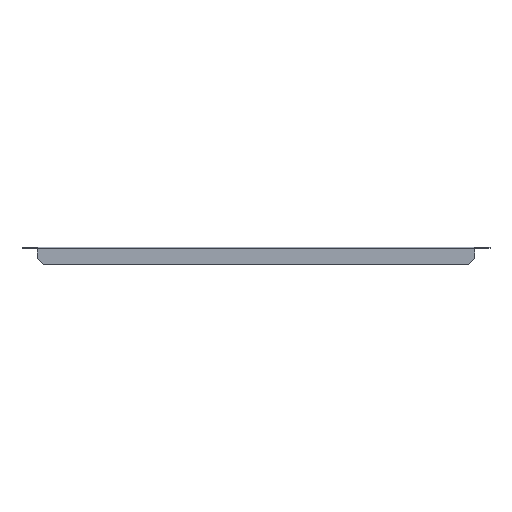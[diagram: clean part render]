
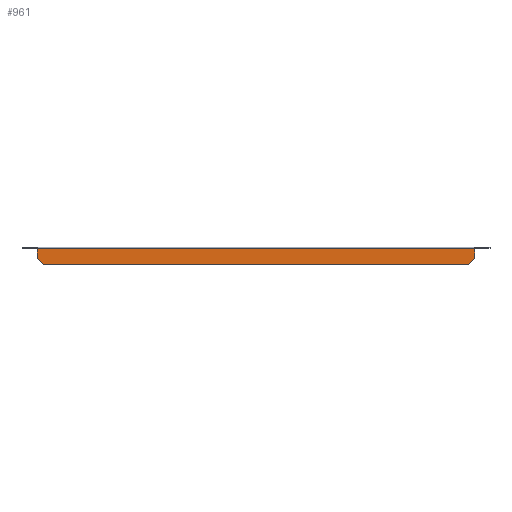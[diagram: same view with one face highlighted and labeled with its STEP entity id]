
A CAD part, front view. The second image highlights one B-rep face of the part: STEP entity #961.
In plain terms, the highlighted planar face has unit normal (0, -1, 0).
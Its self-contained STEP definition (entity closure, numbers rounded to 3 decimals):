
#69 = CARTESIAN_POINT ( 'NONE',  ( 639.308, 0., -25. ) ) ;
#79 = VERTEX_POINT ( 'NONE', #756 ) ;
#125 = EDGE_CURVE ( 'NONE', #79, #297, #1355, .T. ) ;
#132 = DIRECTION ( 'NONE',  ( 0., 0., 1. ) ) ;
#147 = ORIENTED_EDGE ( 'NONE', *, *, #1243, .T. ) ;
#148 = VERTEX_POINT ( 'NONE', #883 ) ;
#154 = DIRECTION ( 'NONE',  ( 0., 0., -1. ) ) ;
#286 = VERTEX_POINT ( 'NONE', #904 ) ;
#297 = VERTEX_POINT ( 'NONE', #427 ) ;
#302 = DIRECTION ( 'NONE',  ( 1., 0., 0. ) ) ;
#385 = CARTESIAN_POINT ( 'NONE',  ( 648.5, 0., -2.237 ) ) ;
#389 = PLANE ( 'NONE',  #402 ) ;
#402 = AXIS2_PLACEMENT_3D ( 'NONE', #1447, #864, #132 ) ;
#424 = ORIENTED_EDGE ( 'NONE', *, *, #1105, .T. ) ;
#427 = CARTESIAN_POINT ( 'NONE',  ( 30.692, 0., -25. ) ) ;
#468 = LINE ( 'NONE', #1515, #1448 ) ;
#487 = VECTOR ( 'NONE', #1150, 1000. ) ;
#543 = EDGE_CURVE ( 'NONE', #297, #666, #468, .T. ) ;
#571 = LINE ( 'NONE', #1506, #1603 ) ;
#654 = CARTESIAN_POINT ( 'NONE',  ( 648.5, 0., -1.5 ) ) ;
#661 = LINE ( 'NONE', #1167, #1710 ) ;
#666 = VERTEX_POINT ( 'NONE', #69 ) ;
#673 = DIRECTION ( 'NONE',  ( 1., 0., 0. ) ) ;
#679 = VECTOR ( 'NONE', #1479, 1000. ) ;
#756 = CARTESIAN_POINT ( 'NONE',  ( 21.5, 0., -15.808 ) ) ;
#765 = LINE ( 'NONE', #654, #679 ) ;
#803 = VECTOR ( 'NONE', #1018, 1000. ) ;
#818 = FACE_OUTER_BOUND ( 'NONE', #996, .T. ) ;
#864 = DIRECTION ( 'NONE',  ( 0., 1., 0. ) ) ;
#879 = ORIENTED_EDGE ( 'NONE', *, *, #125, .T. ) ;
#883 = CARTESIAN_POINT ( 'NONE',  ( 21.5, 0., -2.237 ) ) ;
#904 = CARTESIAN_POINT ( 'NONE',  ( 648.5, 0., -15.808 ) ) ;
#905 = ORIENTED_EDGE ( 'NONE', *, *, #1347, .F. ) ;
#946 = ORIENTED_EDGE ( 'NONE', *, *, #543, .T. ) ;
#951 = VERTEX_POINT ( 'NONE', #385 ) ;
#961 = ADVANCED_FACE ( 'NONE', ( #818 ), #389, .F. ) ;
#996 = EDGE_LOOP ( 'NONE', ( #905, #424, #879, #946, #147, #1147 ) ) ;
#1018 = DIRECTION ( 'NONE',  ( 0.707, 0., -0.707 ) ) ;
#1105 = EDGE_CURVE ( 'NONE', #148, #79, #661, .T. ) ;
#1147 = ORIENTED_EDGE ( 'NONE', *, *, #1526, .T. ) ;
#1150 = DIRECTION ( 'NONE',  ( 0.707, 0., 0.707 ) ) ;
#1152 = CARTESIAN_POINT ( 'NONE',  ( 342.154, 0., -322.154 ) ) ;
#1161 = LINE ( 'NONE', #1152, #487 ) ;
#1167 = CARTESIAN_POINT ( 'NONE',  ( 21.5, 0., -1.5 ) ) ;
#1243 = EDGE_CURVE ( 'NONE', #666, #286, #1161, .T. ) ;
#1347 = EDGE_CURVE ( 'NONE', #148, #951, #571, .T. ) ;
#1355 = LINE ( 'NONE', #1623, #803 ) ;
#1447 = CARTESIAN_POINT ( 'NONE',  ( 21.5, 0., -1.5 ) ) ;
#1448 = VECTOR ( 'NONE', #673, 1000. ) ;
#1479 = DIRECTION ( 'NONE',  ( 0., 0., 1. ) ) ;
#1506 = CARTESIAN_POINT ( 'NONE',  ( 648.5, 0., -2.237 ) ) ;
#1515 = CARTESIAN_POINT ( 'NONE',  ( 21.5, 0., -25. ) ) ;
#1526 = EDGE_CURVE ( 'NONE', #286, #951, #765, .T. ) ;
#1603 = VECTOR ( 'NONE', #302, 1000. ) ;
#1623 = CARTESIAN_POINT ( 'NONE',  ( 14.346, 0., -8.654 ) ) ;
#1710 = VECTOR ( 'NONE', #154, 1000. ) ;
